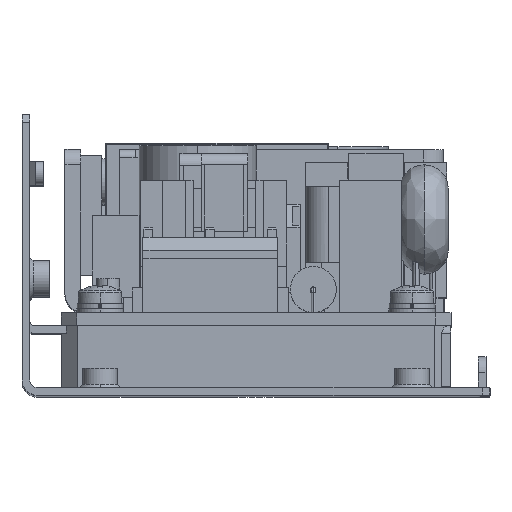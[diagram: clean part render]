
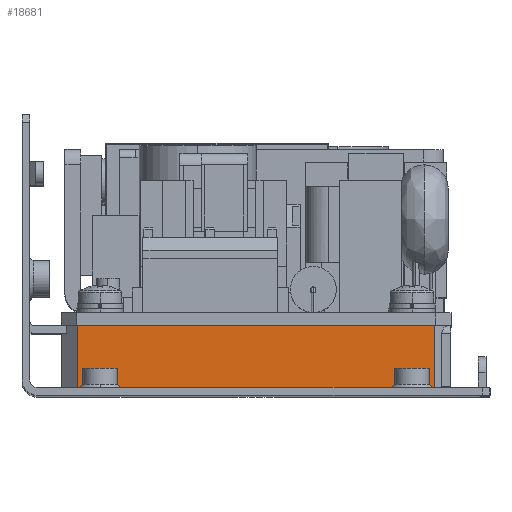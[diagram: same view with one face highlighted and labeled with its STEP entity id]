
A CAD part, top view. The second image highlights one B-rep face of the part: STEP entity #18681.
In plain terms, the highlighted planar face has unit normal (0, 0, 1).
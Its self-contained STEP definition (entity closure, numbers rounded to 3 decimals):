
#1286 = CARTESIAN_POINT ( 'NONE',  ( -54.9, 1., -15.1 ) ) ;
#1475 = LINE ( 'NONE', #81220, #73498 ) ;
#1488 = CARTESIAN_POINT ( 'NONE',  ( -13., 1., -15.1 ) ) ;
#2838 = CARTESIAN_POINT ( 'NONE',  ( -54.9, 1., -15.1 ) ) ;
#3546 = VERTEX_POINT ( 'NONE', #1488 ) ;
#3572 = VERTEX_POINT ( 'NONE', #65294 ) ;
#5447 = CARTESIAN_POINT ( 'NONE',  ( -52.9, 9., -15.1 ) ) ;
#7608 = CARTESIAN_POINT ( 'NONE',  ( -5.1, 9., -15.1 ) ) ;
#10411 = LINE ( 'NONE', #1286, #81527 ) ;
#11958 = LINE ( 'NONE', #2838, #49935 ) ;
#13256 = VERTEX_POINT ( 'NONE', #5447 ) ;
#15357 = DIRECTION ( 'NONE',  ( 0., 1., 0. ) ) ;
#16125 = CARTESIAN_POINT ( 'NONE',  ( -7.1, 9., -15.1 ) ) ;
#16692 = PLANE ( 'NONE',  #19677 ) ;
#17702 = VECTOR ( 'NONE', #57419, 1000. ) ;
#18681 = ADVANCED_FACE ( 'NONE', ( #56430 ), #16692, .F. ) ;
#18807 = DIRECTION ( 'NONE',  ( 1., 0., 0. ) ) ;
#19677 = AXIS2_PLACEMENT_3D ( 'NONE', #7608, #87344, #78272 ) ;
#20620 = ORIENTED_EDGE ( 'NONE', *, *, #60913, .F. ) ;
#24477 = CARTESIAN_POINT ( 'NONE',  ( -52.9, 9., -15.1 ) ) ;
#27954 = CARTESIAN_POINT ( 'NONE',  ( -5.1, 9., -15.1 ) ) ;
#30918 = VECTOR ( 'NONE', #15357, 1000. ) ;
#31042 = CARTESIAN_POINT ( 'NONE',  ( -7.1, 1., -15.1 ) ) ;
#32673 = VERTEX_POINT ( 'NONE', #16125 ) ;
#33657 = LINE ( 'NONE', #24477, #30918 ) ;
#34712 = ORIENTED_EDGE ( 'NONE', *, *, #39280, .F. ) ;
#34761 = CARTESIAN_POINT ( 'NONE',  ( -15., 1., -15.1 ) ) ;
#37137 = LINE ( 'NONE', #27954, #41948 ) ;
#37776 = ORIENTED_EDGE ( 'NONE', *, *, #45840, .F. ) ;
#39280 = EDGE_CURVE ( 'NONE', #47135, #13256, #33657, .T. ) ;
#41190 = ORIENTED_EDGE ( 'NONE', *, *, #64624, .F. ) ;
#41948 = VECTOR ( 'NONE', #18807, 1000. ) ;
#45840 = EDGE_CURVE ( 'NONE', #88259, #3572, #1475, .T. ) ;
#47135 = VERTEX_POINT ( 'NONE', #47653 ) ;
#47653 = CARTESIAN_POINT ( 'NONE',  ( -52.9, 1., -15.1 ) ) ;
#49266 = EDGE_CURVE ( 'NONE', #32673, #59014, #75564, .T. ) ;
#49935 = VECTOR ( 'NONE', #82606, 1000. ) ;
#50047 = EDGE_LOOP ( 'NONE', ( #37776, #20620, #41190, #61733, #76538, #34712, #65925 ) ) ;
#53623 = EDGE_CURVE ( 'NONE', #3572, #47135, #11958, .T. ) ;
#53915 = EDGE_CURVE ( 'NONE', #13256, #32673, #37137, .T. ) ;
#56430 = FACE_OUTER_BOUND ( 'NONE', #50047, .T. ) ;
#56868 = DIRECTION ( 'NONE',  ( -1., 0., 0. ) ) ;
#57419 = DIRECTION ( 'NONE',  ( 0., -1., 0. ) ) ;
#59014 = VERTEX_POINT ( 'NONE', #31042 ) ;
#60913 = EDGE_CURVE ( 'NONE', #3546, #88259, #10411, .T. ) ;
#61733 = ORIENTED_EDGE ( 'NONE', *, *, #49266, .F. ) ;
#64624 = EDGE_CURVE ( 'NONE', #59014, #3546, #75023, .T. ) ;
#65294 = CARTESIAN_POINT ( 'NONE',  ( -50., 1., -15.1 ) ) ;
#65925 = ORIENTED_EDGE ( 'NONE', *, *, #53623, .F. ) ;
#65939 = CARTESIAN_POINT ( 'NONE',  ( -30., 1., -15.1 ) ) ;
#66461 = CARTESIAN_POINT ( 'NONE',  ( -7.1, 9., -15.1 ) ) ;
#72191 = DIRECTION ( 'NONE',  ( -1., 0., 0. ) ) ;
#73498 = VECTOR ( 'NONE', #72191, 1000. ) ;
#73907 = VECTOR ( 'NONE', #56868, 1000. ) ;
#75023 = LINE ( 'NONE', #65939, #73907 ) ;
#75564 = LINE ( 'NONE', #66461, #17702 ) ;
#76538 = ORIENTED_EDGE ( 'NONE', *, *, #53915, .F. ) ;
#78272 = DIRECTION ( 'NONE',  ( -1., 0., 0. ) ) ;
#81028 = DIRECTION ( 'NONE',  ( -1., 0., 0. ) ) ;
#81220 = CARTESIAN_POINT ( 'NONE',  ( -30., 1., -15.1 ) ) ;
#81527 = VECTOR ( 'NONE', #81028, 1000. ) ;
#82606 = DIRECTION ( 'NONE',  ( -1., 0., 0. ) ) ;
#87344 = DIRECTION ( 'NONE',  ( 0., 0., -1. ) ) ;
#88259 = VERTEX_POINT ( 'NONE', #34761 ) ;
